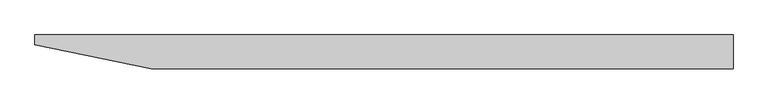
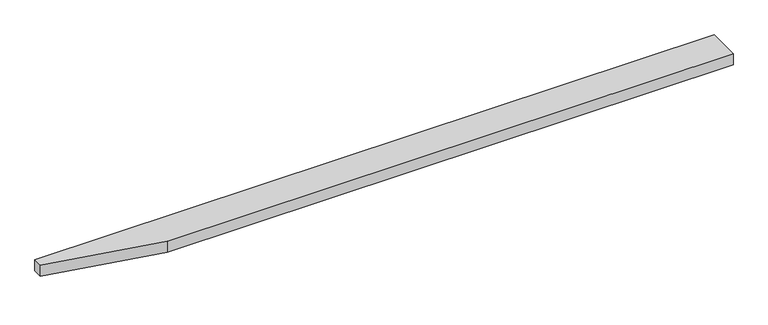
"""IFC4 building model written with IfcOpenShell, lengths in millimetres: proxy geometry, FOUNDATION^TABLE 6_RADIUS ENDS-KEEL."""

from ifc_helpers import new_model, si_unit, origin, origin_with_axes, place, context, project, spatial, polyline, outline, extrude, source, transform, mapped, element, save


def generic_models_e0952b48(model_context):
    return source(origin(), model_context, "Body", "SweptSolid", [
        extrude(outline(polyline([(304.8, 0.0), (0.0, 63.5), (0.0, 88.9), (1828.8, 88.9), (1828.8, 0.0), (304.8, 0.0)])), origin_with_axes(), (0.0, 0.0, 1.0), 31.75),
    ])


if __name__ == "__main__":
    model = new_model("IFC4")
    model_context = context("Model", 3, world=origin())
    ifc_project = project(units=[si_unit("LENGTHUNIT", "METRE", prefix="MILLI")], contexts=[model_context])
    site = spatial("IfcSite", under=ifc_project)
    building = spatial("IfcBuilding", under=site)
    placement = place(None, origin())
    generic_models_shape = generic_models_e0952b48(model_context)
    element("IfcBuildingElementProxy", 1, Name="FOUNDATION^TABLE 6_RADIUS ENDS-KEEL", ObjectType="FOUNDATION^TABLE 6_RADIUS ENDS-KEEL", at=placement, inside=building, context=model_context, shape_type="MappedRepresentation", body=[
        mapped(generic_models_shape, transform((0.0, 0.0, 0.0), x_axis=(1.0, 0.0, 0.0), y_axis=(0.0, 1.0, 0.0), z_axis=(0.0, 0.0, 1.0))),
    ])
    save(model, "model.ifc")
